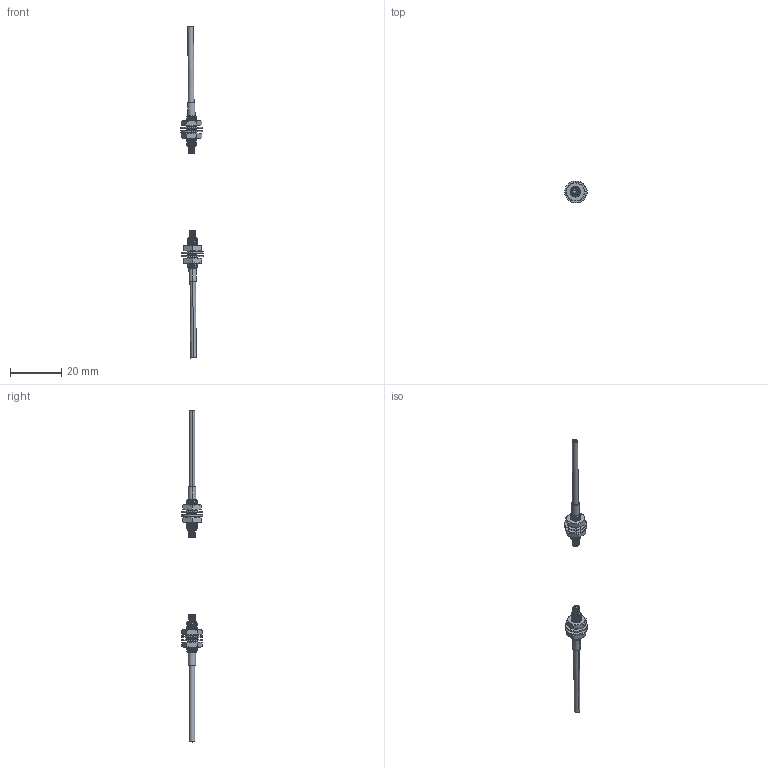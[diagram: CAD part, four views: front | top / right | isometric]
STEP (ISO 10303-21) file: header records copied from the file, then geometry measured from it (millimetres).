
FILE_DESCRIPTION (( 'STEP AP214' ), '1' );
FILE_NAME ('FT-420-10H.STEP', '2019-06-18T02:27:51', ( '' ), ( '' ), 'SwSTEP 2.0', 'SolidWorks 2018', '' );
FILE_SCHEMA (( 'AUTOMOTIVE_DESIGN' ));
Length unit declared in the file: millimetre
Products named in the file (1): FT-420-10H
Bounding box: 8.94 x 8.5 x 130.01 mm (x, y, z)
Volume: 884.6 mm3; surface area: 2061.2 mm2
Topology: 10 solids, 10 shells, 426 faces, 1142 edges, 742 vertices
Faces by surface type: cylinder 186, plane 122, cone 90, bspline 28
Entity records: 23293 total; most frequent: CARTESIAN_POINT 13179, ORIENTED_EDGE 2284, DIRECTION 1836, EDGE_CURVE 1142, VERTEX_POINT 742, AXIS2_PLACEMENT_3D 695, EDGE_LOOP 456, LINE 446
